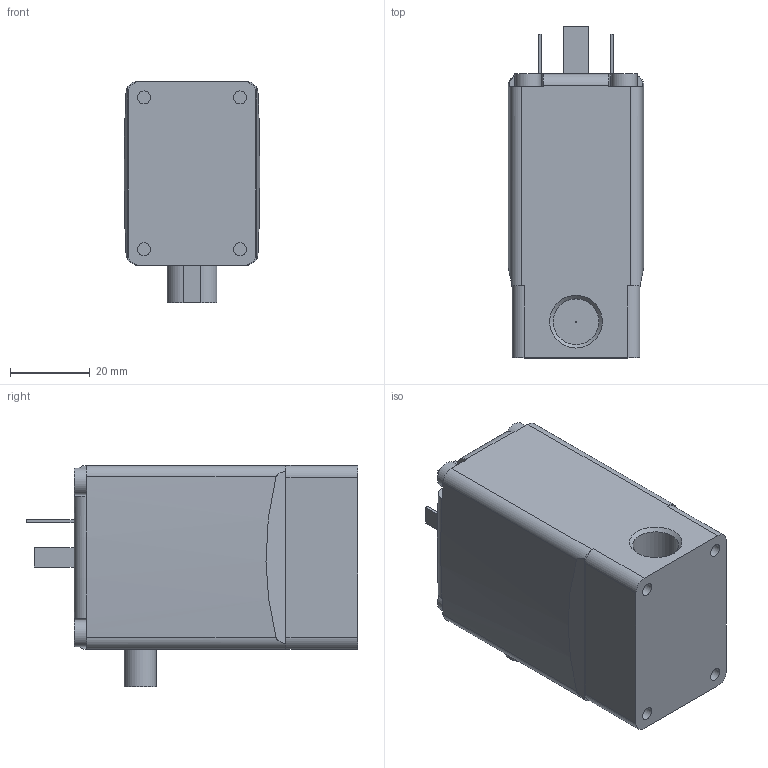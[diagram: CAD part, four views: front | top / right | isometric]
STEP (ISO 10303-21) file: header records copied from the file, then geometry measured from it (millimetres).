
FILE_DESCRIPTION( ( 'STEP AP214' ), '1' );
FILE_NAME( 'p:/temp/worker_40/temp/app_52_02018110217564586664774192d056f_000000_00_00_000000/format_0/0330-122101-Direct-acting_2_2-_or_3_2-way_pivoted_armature_valve_analytical.stp', '2018-11-02T16:56:46', ( '' ), ( '' ), ' ', 'PARTsolutions', ' ' );
FILE_SCHEMA( ( 'AUTOMOTIVE_DESIGN { 1 0 10303 214 1 1 1 1 }' ) );
Length unit declared in the file: millimetre
Products named in the file (1): HI_0330-122101-Direct-acting 2/2- or 3/2-way pivoted armature valve analytical
Bounding box: 34 x 83 x 55.3 mm (x, y, z)
Volume: 105633.2 mm3; surface area: 16073.7 mm2
Topology: 1 solids, 1 shells, 85 faces, 202 edges, 134 vertices
Faces by surface type: plane 51, cylinder 30, torus 2, cone 2
Full cylindrical faces by diameter (mm): 0.2 x1, 2.46 x1, 3.24 x4, 6.6 x4, 11.445 x2
Entity records: 3154 total; most frequent: CARTESIAN_POINT 468, DIRECTION 428, ORIENTED_EDGE 376, EDGE_CURVE 188, AXIS2_PLACEMENT_3D 158, VERTEX_POINT 134, EDGE_LOOP 116, LINE 112
